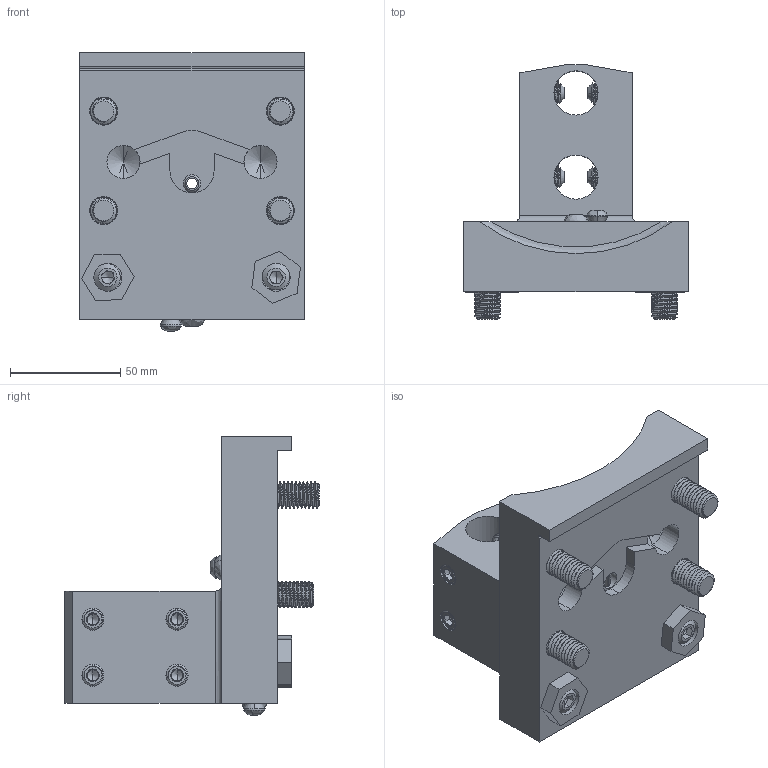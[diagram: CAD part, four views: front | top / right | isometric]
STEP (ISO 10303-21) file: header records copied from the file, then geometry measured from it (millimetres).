
FILE_DESCRIPTION (( 'STEP AP203' ), '1' );
FILE_NAME ('04-0765, BOT20MID-20T.STEP', '2022-07-18T22:25:59', ( '' ), ( '' ), 'SwSTEP 2.0', 'SolidWorks 2021', '' );
FILE_SCHEMA (( 'CONFIG_CONTROL_DESIGN' ));
Length unit declared in the file: inch
Products named in the file (1): 04-0765, BOT20MID-20T
Bounding box: 101.6 x 115.17 x 125.93 mm (x, y, z)
Surface area: 88886.3 mm2 (no closed solid volume)
Topology: 0 solids, 27 shells, 1064 faces, 3005 edges, 1936 vertices
Faces by surface type: cylinder 660, plane 186, cone 183, bspline 35
Entity records: 53895 total; most frequent: CARTESIAN_POINT 30472, ORIENTED_EDGE 5795, DIRECTION 3963, EDGE_CURVE 2973, VERTEX_POINT 1936, AXIS2_PLACEMENT_3D 1452, EDGE_LOOP 1114, FACE_OUTER_BOUND 1064
